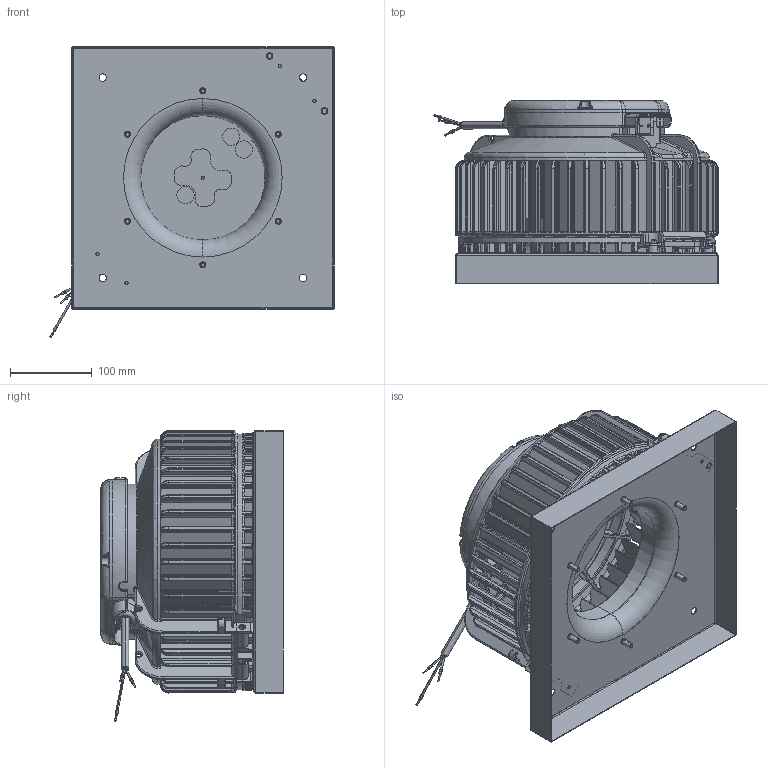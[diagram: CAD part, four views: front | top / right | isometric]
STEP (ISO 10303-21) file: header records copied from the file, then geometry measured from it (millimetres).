
FILE_DESCRIPTION (( 'STEP AP203' ), '1' );
FILE_NAME ('128524-03_DHA220E4P01.STEP', '2017-04-19T14:10:33', ( '' ), ( '' ), 'SwSTEP 2.0', 'SolidWorks 2012', '' );
FILE_SCHEMA (( 'CONFIG_CONTROL_DESIGN' ));
Products named in the file (1): 128524-03_DHA220E4P01
Bounding box: 347.52 x 223.4 x 355.79 mm (x, y, z)
Surface area: 858643.6 mm2 (no closed solid volume)
Topology: 0 solids, 42 shells, 2443 faces, 8352 edges, 5679 vertices
Faces by surface type: cylinder 824, plane 586, torus 518, bspline 411, cone 82, sphere 22
Entity records: 116374 total; most frequent: CARTESIAN_POINT 50236, ORIENTED_EDGE 13754, DIRECTION 12704, EDGE_CURVE 8343, VERTEX_POINT 5678, AXIS2_PLACEMENT_3D 4887, VECTOR 2930, LINE 2930
